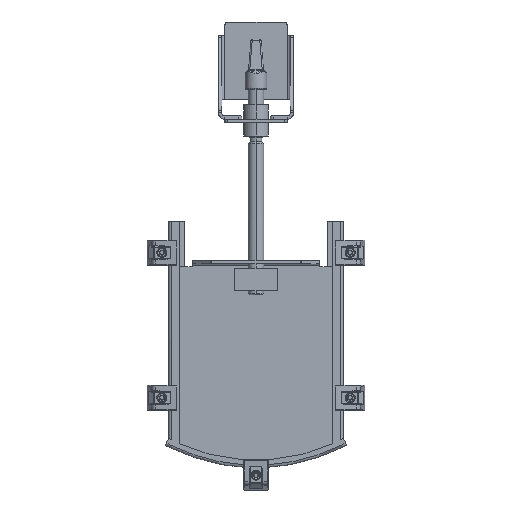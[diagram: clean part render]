
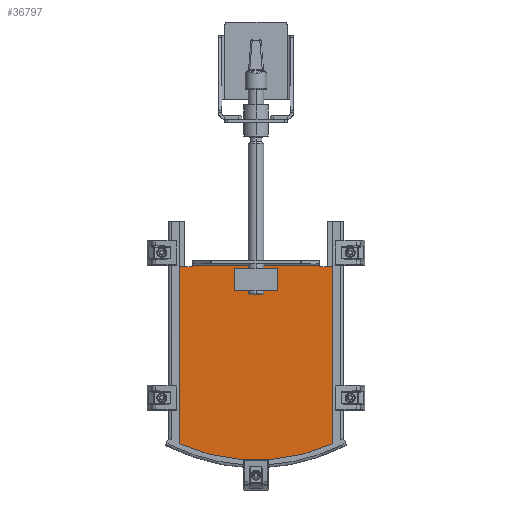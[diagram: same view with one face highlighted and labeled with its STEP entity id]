
A CAD part, top view. The second image highlights one B-rep face of the part: STEP entity #36797.
In plain terms, the highlighted planar face has unit normal (0, 0, 1).
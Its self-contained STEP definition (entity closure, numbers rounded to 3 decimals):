
#612 = LINE ( 'NONE', #9907, #5345 ) ;
#722 = LINE ( 'NONE', #1329, #34182 ) ;
#931 = DIRECTION ( 'NONE',  ( 0., 1., 0. ) ) ;
#1314 = LINE ( 'NONE', #15921, #14972 ) ;
#1329 = CARTESIAN_POINT ( 'NONE',  ( -123., -12.001, 33. ) ) ;
#1371 = CIRCLE ( 'NONE', #30550, 300. ) ;
#1840 = EDGE_CURVE ( 'NONE', #38570, #29345, #722, .T. ) ;
#1909 = CARTESIAN_POINT ( 'NONE',  ( 34., 307.5, 33. ) ) ;
#2326 = CIRCLE ( 'NONE', #24999, 2. ) ;
#2835 = ORIENTED_EDGE ( 'NONE', *, *, #5266, .F. ) ;
#3931 = ORIENTED_EDGE ( 'NONE', *, *, #33472, .T. ) ;
#4045 = CARTESIAN_POINT ( 'NONE',  ( -34., 307.5, 33. ) ) ;
#4220 = EDGE_CURVE ( 'NONE', #15111, #12040, #32692, .T. ) ;
#4411 = CARTESIAN_POINT ( 'NONE',  ( -130., 312., 33. ) ) ;
#4990 = ORIENTED_EDGE ( 'NONE', *, *, #25892, .T. ) ;
#5266 = EDGE_CURVE ( 'NONE', #13730, #5806, #29982, .T. ) ;
#5274 = ORIENTED_EDGE ( 'NONE', *, *, #38208, .F. ) ;
#5345 = VECTOR ( 'NONE', #37370, 1000. ) ;
#5560 = DIRECTION ( 'NONE',  ( 1., 0., 0. ) ) ;
#5806 = VERTEX_POINT ( 'NONE', #36881 ) ;
#9089 = VECTOR ( 'NONE', #9237, 1000. ) ;
#9237 = DIRECTION ( 'NONE',  ( -1., 0., 0. ) ) ;
#9787 = LINE ( 'NONE', #13274, #33780 ) ;
#9907 = CARTESIAN_POINT ( 'NONE',  ( 123., -12.001, 33. ) ) ;
#10194 = ORIENTED_EDGE ( 'NONE', *, *, #1840, .T. ) ;
#10287 = DIRECTION ( 'NONE',  ( 1., 0., 0. ) ) ;
#10382 = CARTESIAN_POINT ( 'NONE',  ( 104., 310., 33. ) ) ;
#10421 = CARTESIAN_POINT ( 'NONE',  ( 34., 307.5, 33. ) ) ;
#10742 = DIRECTION ( 'NONE',  ( 1., 0., 0. ) ) ;
#11130 = DIRECTION ( 'NONE',  ( 0., -1., 0. ) ) ;
#11206 = CARTESIAN_POINT ( 'NONE',  ( -34., 272.5, 33. ) ) ;
#11781 = CARTESIAN_POINT ( 'NONE',  ( -123., 26.374, 33. ) ) ;
#11812 = FACE_BOUND ( 'NONE', #14398, .T. ) ;
#12040 = VERTEX_POINT ( 'NONE', #27464 ) ;
#12763 = CARTESIAN_POINT ( 'NONE',  ( -123., 310., 33. ) ) ;
#13247 = VERTEX_POINT ( 'NONE', #15580 ) ;
#13274 = CARTESIAN_POINT ( 'NONE',  ( -34., 307.5, 33. ) ) ;
#13730 = VERTEX_POINT ( 'NONE', #15182 ) ;
#13945 = ORIENTED_EDGE ( 'NONE', *, *, #15429, .T. ) ;
#14070 = LINE ( 'NONE', #11206, #16971 ) ;
#14398 = EDGE_LOOP ( 'NONE', ( #5274, #38015, #14977, #15292 ) ) ;
#14759 = VERTEX_POINT ( 'NONE', #10421 ) ;
#14878 = FACE_OUTER_BOUND ( 'NONE', #18488, .T. ) ;
#14972 = VECTOR ( 'NONE', #32155, 1000. ) ;
#14977 = ORIENTED_EDGE ( 'NONE', *, *, #25917, .F. ) ;
#15111 = VERTEX_POINT ( 'NONE', #4045 ) ;
#15182 = CARTESIAN_POINT ( 'NONE',  ( -102., 312., 33. ) ) ;
#15292 = ORIENTED_EDGE ( 'NONE', *, *, #24547, .F. ) ;
#15429 = EDGE_CURVE ( 'NONE', #29345, #13247, #1371, .T. ) ;
#15580 = CARTESIAN_POINT ( 'NONE',  ( 123., 26.374, 33. ) ) ;
#15921 = CARTESIAN_POINT ( 'NONE',  ( 123.172, 310., 33. ) ) ;
#16783 = CARTESIAN_POINT ( 'NONE',  ( 34., 272.5, 33. ) ) ;
#16971 = VECTOR ( 'NONE', #17707, 1000. ) ;
#17493 = LINE ( 'NONE', #1909, #31334 ) ;
#17707 = DIRECTION ( 'NONE',  ( 1., 0., 0. ) ) ;
#18488 = EDGE_LOOP ( 'NONE', ( #3931, #10194, #13945, #33113, #4990, #25669, #2835, #26386 ) ) ;
#19346 = DIRECTION ( 'NONE',  ( -1., 0., 0. ) ) ;
#20050 = CIRCLE ( 'NONE', #32377, 2. ) ;
#20521 = CARTESIAN_POINT ( 'NONE',  ( -104., 310., 33. ) ) ;
#20618 = DIRECTION ( 'NONE',  ( 1., 0., 0. ) ) ;
#22555 = CARTESIAN_POINT ( 'NONE',  ( 123., 310., 33. ) ) ;
#22580 = VECTOR ( 'NONE', #20618, 1000. ) ;
#23763 = DIRECTION ( 'NONE',  ( 0., 0., -1. ) ) ;
#24186 = VECTOR ( 'NONE', #11130, 1000. ) ;
#24547 = EDGE_CURVE ( 'NONE', #32525, #14759, #17493, .T. ) ;
#24999 = AXIS2_PLACEMENT_3D ( 'NONE', #34101, #27981, #31244 ) ;
#25415 = EDGE_CURVE ( 'NONE', #13730, #29392, #20050, .T. ) ;
#25669 = ORIENTED_EDGE ( 'NONE', *, *, #35927, .T. ) ;
#25786 = CARTESIAN_POINT ( 'NONE',  ( -104., 312., 33. ) ) ;
#25892 = EDGE_CURVE ( 'NONE', #28479, #38832, #1314, .T. ) ;
#25917 = EDGE_CURVE ( 'NONE', #14759, #15111, #9787, .T. ) ;
#26386 = ORIENTED_EDGE ( 'NONE', *, *, #25415, .T. ) ;
#26393 = EDGE_CURVE ( 'NONE', #13247, #28479, #612, .T. ) ;
#27464 = CARTESIAN_POINT ( 'NONE',  ( -34., 272.5, 33. ) ) ;
#27784 = LINE ( 'NONE', #37315, #9089 ) ;
#27981 = DIRECTION ( 'NONE',  ( 0., 0., -1. ) ) ;
#27997 = DIRECTION ( 'NONE',  ( 0., 0., 1. ) ) ;
#28479 = VERTEX_POINT ( 'NONE', #22555 ) ;
#28522 = DIRECTION ( 'NONE',  ( 0., -1., 0. ) ) ;
#29345 = VERTEX_POINT ( 'NONE', #11781 ) ;
#29392 = VERTEX_POINT ( 'NONE', #20521 ) ;
#29637 = CARTESIAN_POINT ( 'NONE',  ( -34., 307.5, 33. ) ) ;
#29714 = DIRECTION ( 'NONE',  ( 0., 0., 1. ) ) ;
#29910 = PLANE ( 'NONE',  #33430 ) ;
#29982 = LINE ( 'NONE', #4411, #22580 ) ;
#30550 = AXIS2_PLACEMENT_3D ( 'NONE', #35393, #29714, #5560 ) ;
#31244 = DIRECTION ( 'NONE',  ( 1., 0., 0. ) ) ;
#31334 = VECTOR ( 'NONE', #931, 1000. ) ;
#32155 = DIRECTION ( 'NONE',  ( -1., 0., 0. ) ) ;
#32377 = AXIS2_PLACEMENT_3D ( 'NONE', #25786, #23763, #10742 ) ;
#32525 = VERTEX_POINT ( 'NONE', #16783 ) ;
#32692 = LINE ( 'NONE', #29637, #24186 ) ;
#33113 = ORIENTED_EDGE ( 'NONE', *, *, #26393, .T. ) ;
#33430 = AXIS2_PLACEMENT_3D ( 'NONE', #37353, #27997, #10287 ) ;
#33472 = EDGE_CURVE ( 'NONE', #29392, #38570, #27784, .T. ) ;
#33780 = VECTOR ( 'NONE', #19346, 1000. ) ;
#34101 = CARTESIAN_POINT ( 'NONE',  ( 104., 312., 33. ) ) ;
#34182 = VECTOR ( 'NONE', #28522, 1000. ) ;
#35393 = CARTESIAN_POINT ( 'NONE',  ( 0., 300., 33. ) ) ;
#35927 = EDGE_CURVE ( 'NONE', #38832, #5806, #2326, .T. ) ;
#36797 = ADVANCED_FACE ( 'NONE', ( #14878, #11812 ), #29910, .T. ) ;
#36881 = CARTESIAN_POINT ( 'NONE',  ( 102., 312., 33. ) ) ;
#37315 = CARTESIAN_POINT ( 'NONE',  ( -123.172, 310., 33. ) ) ;
#37353 = CARTESIAN_POINT ( 'NONE',  ( -130., 31.851, 33. ) ) ;
#37370 = DIRECTION ( 'NONE',  ( 0., 1., 0. ) ) ;
#38015 = ORIENTED_EDGE ( 'NONE', *, *, #4220, .F. ) ;
#38208 = EDGE_CURVE ( 'NONE', #12040, #32525, #14070, .T. ) ;
#38570 = VERTEX_POINT ( 'NONE', #12763 ) ;
#38832 = VERTEX_POINT ( 'NONE', #10382 ) ;
